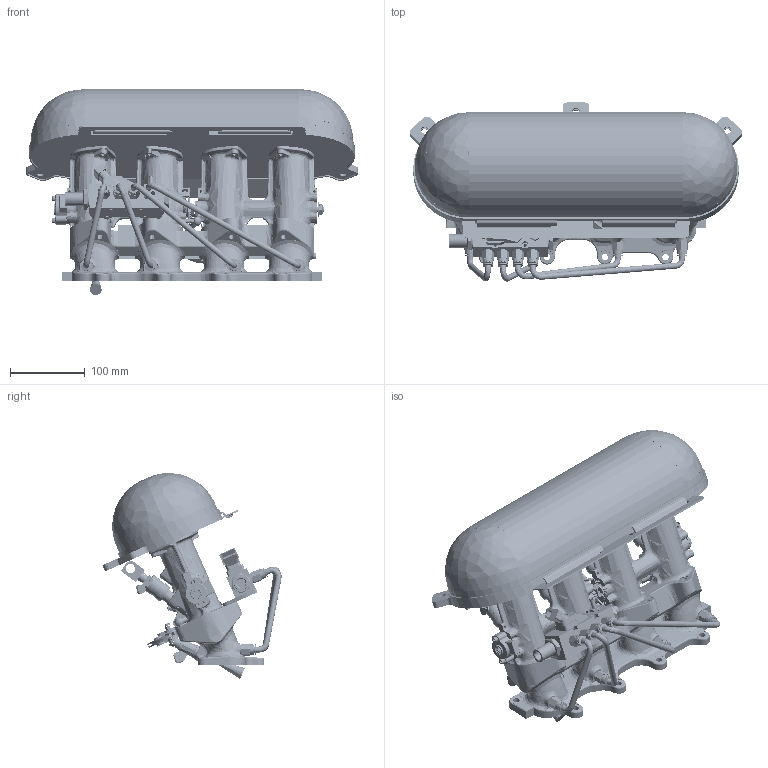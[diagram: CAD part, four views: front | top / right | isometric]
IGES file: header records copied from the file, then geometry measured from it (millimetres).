
Start section: SolidWorks IGES file using analytic representation for surfaces
Global section: file name: D:\??????? ? ?????\ITB Mazda MX-5 Miata\ITB Mazda MX-5 Miata NA 1.6 surface\ITB Mazda MX-5 Miata NA 1.6.IGS; native system: SolidWorks 2019; preprocessor: SolidWorks 2019; author: GOD; date: 250313.222945; units: millimetre
Bounding box: 444.84 x 240.13 x 275.75 mm (x, y, z)
Surface area: 700073.1 mm2 (no closed solid volume)
Topology: 0 solids, 0 shells, 3443 faces, 47335 edges, 47266 vertices
Faces by surface type: bspline 2086, revolution 1357
